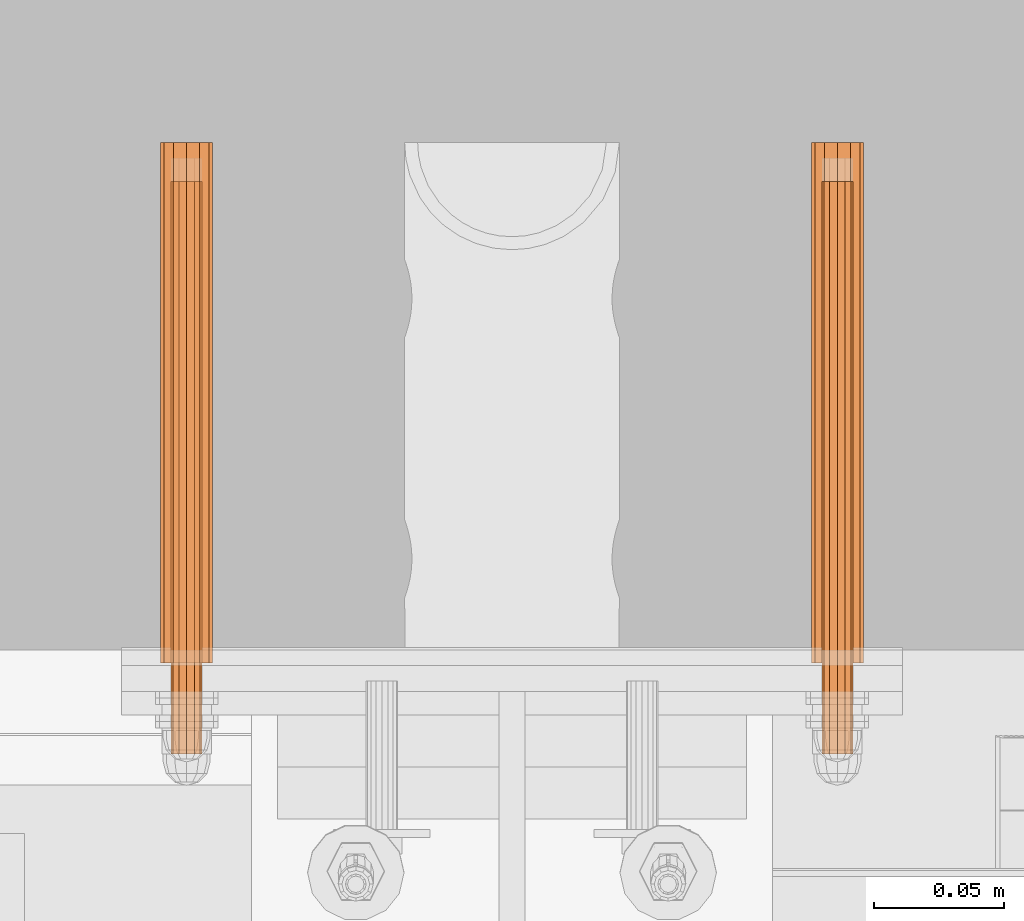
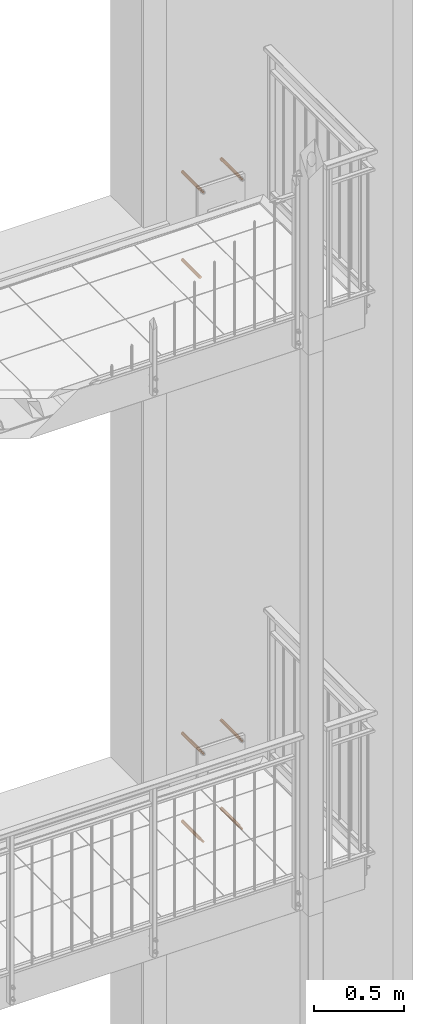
# One storey, part 100 of 162: 13 proxies.
"""IFC2X3 building model written with IfcOpenShell, lengths in millimetres."""

from ifc_helpers import new_model, entity, si_unit, converted_unit, origin_with_axes, place, context, project, spatial, faceted_brep, material, element, save


model = new_model("IFC2X3")

# Units and contexts
model_context = context("Model", 3, precision=1e-09, world=origin_with_axes())
ifc_project = project(units=[si_unit("LENGTHUNIT", "METRE", prefix="MILLI"), si_unit("AREAUNIT", "SQUARE_METRE"), si_unit("VOLUMEUNIT", "CUBIC_METRE"), converted_unit("PLANEANGLEUNIT", "DEGREE", entity("IfcPlaneAngleMeasure", 0.01745329), si_unit("PLANEANGLEUNIT", "RADIAN"), dimensions=[0, 0, 0, 0, 0, 0, 0])], contexts=[model_context])

# Site, building, storey
site_placement = place(None, origin_with_axes())
site = spatial("IfcSite", under=ifc_project, at=site_placement, Name="Hermannstra?e 1a, 60318 Frankfurt", CompositionType="ELEMENT")
building_placement = place(site_placement, origin_with_axes())
building = spatial("IfcBuilding", under=site, at=building_placement, Name="Struktur 1", CompositionType="ELEMENT")
storey_placement = place(building_placement, origin_with_axes())
storey = spatial("IfcBuildingStorey", under=building, at=storey_placement, Name="Default Storey", CompositionType="ELEMENT", Elevation=0.0)

# Proxies
ifc_material_1 = material(Name="Kunststoff")
proxy_1_placement = place(None, origin_with_axes())
element("IfcBuildingElementProxy", 1, at=proxy_1_placement, inside=storey, material=ifc_material_1, ObjectType="-", context=model_context, shape_type="Brep", body=[
    faceted_brep([(5443.308657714, 2930.608666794, 7296.339745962), (5439.648403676, 2930.608666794, 7300.0), (5438.308657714, 2930.608666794, 7305.0), (5439.648403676, 2930.608666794, 7310.0), (5443.308657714, 2930.608666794, 7313.660254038), (5448.308657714, 2930.608666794, 7315.0), (5453.308657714, 2930.608666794, 7313.660254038), (5456.968911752, 2930.608666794, 7310.0), (5458.308657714, 2930.608666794, 7305.0), (5456.968911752, 2930.608666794, 7300.0), (5453.308657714, 2930.608666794, 7296.339745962), (5448.308657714, 2930.608666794, 7295.0), (5448.308657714, 2730.608666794, 7315.0), (5443.308657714, 2730.608666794, 7313.660254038), (5453.308657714, 2730.608666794, 7313.660254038), (5456.968911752, 2730.608666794, 7310.0), (5456.968911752, 2730.608666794, 7300.0), (5453.308657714, 2730.608666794, 7296.339745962), (5458.308657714, 2730.608666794, 7305.0), (5448.308657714, 2730.608666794, 7295.0), (5439.648403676, 2730.608666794, 7310.0), (5438.308657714, 2730.608666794, 7305.0), (5439.648403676, 2730.608666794, 7300.0), (5443.308657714, 2730.608666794, 7296.339745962), (5452.558657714, 2730.608666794, 7297.638784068), (5452.558657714, 2928.608666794, 7297.638784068), (5448.308657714, 2928.608666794, 7296.5), (5448.308657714, 2730.608666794, 7296.5), (5455.669873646, 2730.608666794, 7300.75), (5455.669873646, 2928.608666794, 7300.75), (5448.308657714, 2928.608666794, 7313.5), (5448.308657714, 2730.608666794, 7313.5), (5444.058657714, 2730.608666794, 7312.361215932), (5444.058657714, 2928.608666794, 7312.361215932), (5452.558657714, 2928.608666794, 7312.361215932), (5452.558657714, 2730.608666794, 7312.361215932), (5440.947441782, 2928.608666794, 7309.25), (5439.808657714, 2928.608666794, 7305.0), (5440.947441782, 2928.608666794, 7300.75), (5444.058657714, 2928.608666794, 7297.638784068), (5456.808657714, 2928.608666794, 7305.0), (5455.669873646, 2928.608666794, 7309.25), (5444.058657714, 2730.608666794, 7297.638784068), (5455.669873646, 2730.608666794, 7309.25), (5456.808657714, 2730.608666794, 7305.0), (5440.947441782, 2730.608666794, 7309.25), (5440.947441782, 2730.608666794, 7300.75), (5439.808657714, 2730.608666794, 7305.0)], [[[0, 1, 2, 3, 4, 5, 6, 7, 8, 9, 10, 11]], [[12, 5, 4, 13]], [[14, 6, 5, 12]], [[15, 7, 6, 14]], [[9, 16, 17, 10]], [[18, 8, 7, 15]], [[10, 17, 19, 11]], [[16, 18, 15, 14, 12, 13, 20, 21, 22, 23, 19, 17]], [[8, 18, 16, 9]], [[13, 4, 3, 20]], [[11, 19, 23, 0]], [[24, 25, 26, 27]], [[25, 24, 28, 29]], [[30, 31, 32, 33]], [[31, 30, 34, 35]], [[33, 36, 37, 38, 39, 26, 25, 29, 40, 41, 34, 30]], [[20, 3, 2, 21]], [[0, 23, 22, 1]], [[27, 26, 39, 42]], [[41, 43, 35, 34]], [[40, 44, 43, 41]], [[29, 28, 44, 40]], [[21, 2, 1, 22]], [[33, 32, 45, 36]], [[42, 39, 38, 46]], [[36, 45, 47, 37]], [[46, 38, 37, 47]]]),
])
proxy_2_placement = place(None, origin_with_axes())
element("IfcBuildingElementProxy", 2, at=proxy_2_placement, inside=storey, material=ifc_material_1, ObjectType="-", context=model_context, shape_type="Brep", body=[
    faceted_brep([(5689.648403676, 2930.608666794, 7910.0), (5693.308657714, 2930.608666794, 7913.660254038), (5698.308657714, 2930.608666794, 7915.0), (5703.308657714, 2930.608666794, 7913.660254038), (5706.968911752, 2930.608666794, 7910.0), (5708.308657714, 2930.608666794, 7905.0), (5706.968911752, 2930.608666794, 7900.0), (5703.308657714, 2930.608666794, 7896.339745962), (5698.308657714, 2930.608666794, 7895.0), (5693.308657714, 2930.608666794, 7896.339745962), (5689.648403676, 2930.608666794, 7900.0), (5688.308657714, 2930.608666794, 7905.0), (5698.308657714, 2730.608666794, 7895.0), (5693.308657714, 2730.608666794, 7896.339745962), (5703.308657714, 2730.608666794, 7896.339745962), (5706.968911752, 2730.608666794, 7900.0), (5706.968911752, 2730.608666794, 7910.0), (5703.308657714, 2730.608666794, 7913.660254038), (5708.308657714, 2730.608666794, 7905.0), (5698.308657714, 2730.608666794, 7915.0), (5693.308657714, 2730.608666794, 7913.660254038), (5689.648403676, 2730.608666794, 7910.0), (5688.308657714, 2730.608666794, 7905.0), (5689.648403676, 2730.608666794, 7900.0), (5702.558657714, 2730.608666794, 7912.361215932), (5705.669873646, 2730.608666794, 7909.25), (5706.808657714, 2730.608666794, 7905.0), (5705.669873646, 2730.608666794, 7900.75), (5702.558657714, 2730.608666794, 7897.638784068), (5698.308657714, 2730.608666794, 7896.5), (5694.058657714, 2730.608666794, 7897.638784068), (5690.947441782, 2730.608666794, 7900.75), (5689.808657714, 2730.608666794, 7905.0), (5690.947441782, 2730.608666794, 7909.25), (5694.058657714, 2730.608666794, 7912.361215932), (5698.308657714, 2730.608666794, 7913.5), (5702.558657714, 2928.608666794, 7912.361215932), (5698.308657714, 2928.608666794, 7913.5), (5705.669873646, 2928.608666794, 7909.25), (5698.308657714, 2928.608666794, 7896.5), (5694.058657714, 2928.608666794, 7897.638784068), (5702.558657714, 2928.608666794, 7897.638784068), (5690.947441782, 2928.608666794, 7900.75), (5705.669873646, 2928.608666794, 7900.75), (5706.808657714, 2928.608666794, 7905.0), (5694.058657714, 2928.608666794, 7912.361215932), (5690.947441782, 2928.608666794, 7909.25), (5689.808657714, 2928.608666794, 7905.0)], [[[0, 1, 2, 3, 4, 5, 6, 7, 8, 9, 10, 11]], [[8, 12, 13, 9]], [[7, 14, 12, 8]], [[6, 15, 14, 7]], [[16, 4, 3, 17]], [[5, 18, 15, 6]], [[17, 3, 2, 19]], [[18, 16, 17, 19, 20, 21, 22, 23, 13, 12, 14, 15], [24, 25, 26, 27, 28, 29, 30, 31, 32, 33, 34, 35]], [[18, 5, 4, 16]], [[9, 13, 23, 10]], [[19, 2, 1, 20]], [[36, 24, 35, 37]], [[24, 36, 38, 25]], [[29, 39, 40, 30]], [[39, 29, 28, 41]], [[42, 40, 39, 41, 43, 44, 38, 36, 37, 45, 46, 47]], [[10, 23, 22, 11]], [[20, 1, 0, 21]], [[37, 35, 34, 45]], [[27, 43, 41, 28]], [[26, 44, 43, 27]], [[25, 38, 44, 26]], [[11, 22, 21, 0]], [[30, 40, 42, 31]], [[45, 34, 33, 46]], [[31, 42, 47, 32]], [[46, 33, 32, 47]]]),
])
ifc_material_2 = material(Name="A4")
proxy_3_placement = place(None, origin_with_axes())
element("IfcBuildingElementProxy", 3, at=proxy_3_placement, inside=storey, material=ifc_material_2, ObjectType="-", context=model_context, shape_type="Brep", body=[
    faceted_brep([(5698.308657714, 2915.608666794, 7899.0), (5698.308657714, 2695.608666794, 7899.0), (5695.308657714, 2695.608666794, 7899.803847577), (5695.308657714, 2915.608666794, 7899.803847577), (5701.308657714, 2915.608666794, 7899.803847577), (5701.308657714, 2695.608666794, 7899.803847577), (5703.504810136, 2695.608666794, 7908.0), (5701.308657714, 2695.608666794, 7910.196152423), (5698.308657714, 2695.608666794, 7911.0), (5695.308657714, 2695.608666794, 7910.196152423), (5693.112505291, 2695.608666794, 7908.0), (5692.308657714, 2695.608666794, 7905.0), (5693.112505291, 2695.608666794, 7902.0), (5703.504810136, 2695.608666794, 7902.0), (5704.308657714, 2695.608666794, 7905.0), (5693.112505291, 2915.608666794, 7908.0), (5695.308657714, 2915.608666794, 7910.196152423), (5698.308657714, 2915.608666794, 7911.0), (5701.308657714, 2915.608666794, 7910.196152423), (5703.504810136, 2915.608666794, 7908.0), (5704.308657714, 2915.608666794, 7905.0), (5703.504810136, 2915.608666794, 7902.0), (5693.112505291, 2915.608666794, 7902.0), (5692.308657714, 2915.608666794, 7905.0)], [[[0, 1, 2, 3]], [[1, 0, 4, 5]], [[6, 7, 8, 9, 10, 11, 12, 2, 1, 5, 13, 14]], [[15, 16, 17, 18, 19, 20, 21, 4, 0, 3, 22, 23]], [[3, 2, 12, 22]], [[5, 4, 21, 13]], [[11, 23, 22, 12]], [[10, 15, 23, 11]], [[13, 21, 20, 14]], [[16, 9, 8, 17]], [[15, 10, 9, 16]], [[17, 8, 7, 18]], [[14, 20, 19, 6]], [[18, 7, 6, 19]]]),
])
proxy_4_placement = place(None, origin_with_axes())
element("IfcBuildingElementProxy", 4, at=proxy_4_placement, inside=storey, material=ifc_material_1, ObjectType="-", context=model_context, shape_type="Brep", body=[
    faceted_brep([(5439.648403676, 2930.608666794, 7910.0), (5443.308657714, 2930.608666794, 7913.660254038), (5448.308657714, 2930.608666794, 7915.0), (5453.308657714, 2930.608666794, 7913.660254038), (5456.968911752, 2930.608666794, 7910.0), (5458.308657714, 2930.608666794, 7905.0), (5456.968911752, 2930.608666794, 7900.0), (5453.308657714, 2930.608666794, 7896.339745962), (5448.308657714, 2930.608666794, 7895.0), (5443.308657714, 2930.608666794, 7896.339745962), (5439.648403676, 2930.608666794, 7900.0), (5438.308657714, 2930.608666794, 7905.0), (5448.308657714, 2730.608666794, 7895.0), (5443.308657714, 2730.608666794, 7896.339745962), (5453.308657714, 2730.608666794, 7896.339745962), (5456.968911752, 2730.608666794, 7900.0), (5456.968911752, 2730.608666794, 7910.0), (5453.308657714, 2730.608666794, 7913.660254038), (5458.308657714, 2730.608666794, 7905.0), (5448.308657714, 2730.608666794, 7915.0), (5443.308657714, 2730.608666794, 7913.660254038), (5439.648403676, 2730.608666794, 7910.0), (5438.308657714, 2730.608666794, 7905.0), (5439.648403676, 2730.608666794, 7900.0), (5452.558657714, 2730.608666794, 7912.361215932), (5455.669873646, 2730.608666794, 7909.25), (5456.808657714, 2730.608666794, 7905.0), (5455.669873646, 2730.608666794, 7900.75), (5452.558657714, 2730.608666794, 7897.638784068), (5448.308657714, 2730.608666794, 7896.5), (5444.058657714, 2730.608666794, 7897.638784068), (5440.947441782, 2730.608666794, 7900.75), (5439.808657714, 2730.608666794, 7905.0), (5440.947441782, 2730.608666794, 7909.25), (5444.058657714, 2730.608666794, 7912.361215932), (5448.308657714, 2730.608666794, 7913.5), (5452.558657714, 2928.608666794, 7912.361215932), (5448.308657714, 2928.608666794, 7913.5), (5455.669873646, 2928.608666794, 7909.25), (5448.308657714, 2928.608666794, 7896.5), (5444.058657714, 2928.608666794, 7897.638784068), (5452.558657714, 2928.608666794, 7897.638784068), (5440.947441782, 2928.608666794, 7900.75), (5455.669873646, 2928.608666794, 7900.75), (5456.808657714, 2928.608666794, 7905.0), (5444.058657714, 2928.608666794, 7912.361215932), (5440.947441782, 2928.608666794, 7909.25), (5439.808657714, 2928.608666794, 7905.0)], [[[0, 1, 2, 3, 4, 5, 6, 7, 8, 9, 10, 11]], [[8, 12, 13, 9]], [[7, 14, 12, 8]], [[6, 15, 14, 7]], [[16, 4, 3, 17]], [[5, 18, 15, 6]], [[17, 3, 2, 19]], [[18, 16, 17, 19, 20, 21, 22, 23, 13, 12, 14, 15], [24, 25, 26, 27, 28, 29, 30, 31, 32, 33, 34, 35]], [[18, 5, 4, 16]], [[9, 13, 23, 10]], [[19, 2, 1, 20]], [[36, 24, 35, 37]], [[24, 36, 38, 25]], [[29, 39, 40, 30]], [[39, 29, 28, 41]], [[42, 40, 39, 41, 43, 44, 38, 36, 37, 45, 46, 47]], [[10, 23, 22, 11]], [[20, 1, 0, 21]], [[37, 35, 34, 45]], [[27, 43, 41, 28]], [[26, 44, 43, 27]], [[25, 38, 44, 26]], [[11, 22, 21, 0]], [[30, 40, 42, 31]], [[45, 34, 33, 46]], [[31, 42, 47, 32]], [[46, 33, 32, 47]]]),
])
proxy_5_placement = place(None, origin_with_axes())
element("IfcBuildingElementProxy", 5, at=proxy_5_placement, inside=storey, material=ifc_material_2, ObjectType="-", context=model_context, shape_type="Brep", body=[
    faceted_brep([(5448.308657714, 2915.608666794, 7899.0), (5448.308657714, 2695.608666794, 7899.0), (5445.308657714, 2695.608666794, 7899.803847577), (5445.308657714, 2915.608666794, 7899.803847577), (5451.308657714, 2915.608666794, 7899.803847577), (5451.308657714, 2695.608666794, 7899.803847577), (5453.504810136, 2695.608666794, 7908.0), (5451.308657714, 2695.608666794, 7910.196152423), (5448.308657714, 2695.608666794, 7911.0), (5445.308657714, 2695.608666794, 7910.196152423), (5443.112505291, 2695.608666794, 7908.0), (5442.308657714, 2695.608666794, 7905.0), (5443.112505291, 2695.608666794, 7902.0), (5453.504810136, 2695.608666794, 7902.0), (5454.308657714, 2695.608666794, 7905.0), (5443.112505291, 2915.608666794, 7908.0), (5445.308657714, 2915.608666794, 7910.196152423), (5448.308657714, 2915.608666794, 7911.0), (5451.308657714, 2915.608666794, 7910.196152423), (5453.504810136, 2915.608666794, 7908.0), (5454.308657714, 2915.608666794, 7905.0), (5453.504810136, 2915.608666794, 7902.0), (5443.112505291, 2915.608666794, 7902.0), (5442.308657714, 2915.608666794, 7905.0)], [[[0, 1, 2, 3]], [[1, 0, 4, 5]], [[6, 7, 8, 9, 10, 11, 12, 2, 1, 5, 13, 14]], [[15, 16, 17, 18, 19, 20, 21, 4, 0, 3, 22, 23]], [[3, 2, 12, 22]], [[5, 4, 21, 13]], [[11, 23, 22, 12]], [[10, 15, 23, 11]], [[13, 21, 20, 14]], [[16, 9, 8, 17]], [[15, 10, 9, 16]], [[17, 8, 7, 18]], [[14, 20, 19, 6]], [[18, 7, 6, 19]]]),
])
proxy_6_placement = place(None, origin_with_axes())
element("IfcBuildingElementProxy", 6, at=proxy_6_placement, inside=storey, material=ifc_material_2, ObjectType="-", context=model_context, shape_type="Brep", body=[
    faceted_brep([(5698.310071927, 2695.610081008, 3486.0), (5698.310071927, 2915.610081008, 3486.0), (5695.310071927, 2915.610081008, 3485.196152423), (5695.310071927, 2695.610081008, 3485.196152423), (5701.310071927, 2695.610081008, 3485.196152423), (5701.310071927, 2915.610081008, 3485.196152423), (5701.310071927, 2695.610081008, 3474.803847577), (5703.50622435, 2695.610081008, 3477.0), (5704.310071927, 2695.610081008, 3480.0), (5703.50622435, 2695.610081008, 3483.0), (5693.113919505, 2695.610081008, 3483.0), (5692.310071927, 2695.610081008, 3480.0), (5693.113919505, 2695.610081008, 3477.0), (5695.310071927, 2695.610081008, 3474.803847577), (5698.310071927, 2695.610081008, 3474.0), (5695.310071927, 2915.610081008, 3474.803847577), (5693.113919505, 2915.610081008, 3477.0), (5692.310071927, 2915.610081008, 3480.0), (5693.113919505, 2915.610081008, 3483.0), (5703.50622435, 2915.610081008, 3483.0), (5704.310071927, 2915.610081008, 3480.0), (5703.50622435, 2915.610081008, 3477.0), (5701.310071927, 2915.610081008, 3474.803847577), (5698.310071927, 2915.610081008, 3474.0)], [[[0, 1, 2, 3]], [[1, 0, 4, 5]], [[6, 7, 8, 9, 4, 0, 3, 10, 11, 12, 13, 14]], [[15, 16, 17, 18, 2, 1, 5, 19, 20, 21, 22, 23]], [[3, 2, 18, 10]], [[5, 4, 9, 19]], [[17, 11, 10, 18]], [[16, 12, 11, 17]], [[19, 9, 8, 20]], [[13, 15, 23, 14]], [[12, 16, 15, 13]], [[14, 23, 22, 6]], [[20, 8, 7, 21]], [[6, 22, 21, 7]]]),
])
proxy_7_placement = place(None, origin_with_axes())
element("IfcBuildingElementProxy", 7, at=proxy_7_placement, inside=storey, material=ifc_material_1, ObjectType="-", context=model_context, shape_type="Brep", body=[
    faceted_brep([(5693.310071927, 2930.610081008, 3471.339745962), (5689.649817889, 2930.610081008, 3475.0), (5688.310071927, 2930.610081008, 3480.0), (5689.649817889, 2930.610081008, 3485.0), (5693.310071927, 2930.610081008, 3488.660254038), (5698.310071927, 2930.610081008, 3490.0), (5703.310071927, 2930.610081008, 3488.660254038), (5706.970325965, 2930.610081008, 3485.0), (5708.310071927, 2930.610081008, 3480.0), (5706.970325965, 2930.610081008, 3475.0), (5703.310071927, 2930.610081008, 3471.339745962), (5698.310071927, 2930.610081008, 3470.0), (5698.310071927, 2730.610081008, 3490.0), (5693.310071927, 2730.610081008, 3488.660254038), (5703.310071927, 2730.610081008, 3488.660254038), (5706.970325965, 2730.610081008, 3485.0), (5706.970325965, 2730.610081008, 3475.0), (5703.310071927, 2730.610081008, 3471.339745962), (5708.310071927, 2730.610081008, 3480.0), (5698.310071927, 2730.610081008, 3470.0), (5689.649817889, 2730.610081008, 3485.0), (5688.310071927, 2730.610081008, 3480.0), (5689.649817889, 2730.610081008, 3475.0), (5693.310071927, 2730.610081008, 3471.339745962), (5702.560071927, 2730.610081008, 3472.638784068), (5702.560071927, 2928.610081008, 3472.638784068), (5698.310071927, 2928.610081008, 3471.5), (5698.310071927, 2730.610081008, 3471.5), (5705.671287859, 2730.610081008, 3475.75), (5705.671287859, 2928.610081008, 3475.75), (5698.310071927, 2928.610081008, 3488.5), (5698.310071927, 2730.610081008, 3488.5), (5694.060071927, 2730.610081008, 3487.361215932), (5694.060071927, 2928.610081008, 3487.361215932), (5702.560071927, 2928.610081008, 3487.361215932), (5702.560071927, 2730.610081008, 3487.361215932), (5690.948855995, 2928.610081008, 3484.25), (5689.810071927, 2928.610081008, 3480.0), (5690.948855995, 2928.610081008, 3475.75), (5694.060071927, 2928.610081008, 3472.638784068), (5706.810071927, 2928.610081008, 3480.0), (5705.671287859, 2928.610081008, 3484.25), (5694.060071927, 2730.610081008, 3472.638784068), (5705.671287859, 2730.610081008, 3484.25), (5706.810071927, 2730.610081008, 3480.0), (5690.948855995, 2730.610081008, 3484.25), (5690.948855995, 2730.610081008, 3475.75), (5689.810071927, 2730.610081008, 3480.0)], [[[0, 1, 2, 3, 4, 5, 6, 7, 8, 9, 10, 11]], [[12, 5, 4, 13]], [[14, 6, 5, 12]], [[15, 7, 6, 14]], [[9, 16, 17, 10]], [[18, 8, 7, 15]], [[10, 17, 19, 11]], [[16, 18, 15, 14, 12, 13, 20, 21, 22, 23, 19, 17]], [[8, 18, 16, 9]], [[13, 4, 3, 20]], [[11, 19, 23, 0]], [[24, 25, 26, 27]], [[25, 24, 28, 29]], [[30, 31, 32, 33]], [[31, 30, 34, 35]], [[33, 36, 37, 38, 39, 26, 25, 29, 40, 41, 34, 30]], [[20, 3, 2, 21]], [[0, 23, 22, 1]], [[27, 26, 39, 42]], [[41, 43, 35, 34]], [[40, 44, 43, 41]], [[29, 28, 44, 40]], [[21, 2, 1, 22]], [[33, 32, 45, 36]], [[42, 39, 38, 46]], [[36, 45, 47, 37]], [[46, 38, 37, 47]]]),
])
proxy_8_placement = place(None, origin_with_axes())
element("IfcBuildingElementProxy", 8, at=proxy_8_placement, inside=storey, material=ifc_material_2, ObjectType="-", context=model_context, shape_type="Brep", body=[
    faceted_brep([(5448.310071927, 2695.610081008, 3486.0), (5448.310071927, 2915.610081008, 3486.0), (5445.310071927, 2915.610081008, 3485.196152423), (5445.310071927, 2695.610081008, 3485.196152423), (5451.310071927, 2695.610081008, 3485.196152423), (5451.310071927, 2915.610081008, 3485.196152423), (5451.310071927, 2695.610081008, 3474.803847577), (5453.50622435, 2695.610081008, 3477.0), (5454.310071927, 2695.610081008, 3480.0), (5453.50622435, 2695.610081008, 3483.0), (5443.113919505, 2695.610081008, 3483.0), (5442.310071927, 2695.610081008, 3480.0), (5443.113919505, 2695.610081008, 3477.0), (5445.310071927, 2695.610081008, 3474.803847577), (5448.310071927, 2695.610081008, 3474.0), (5445.310071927, 2915.610081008, 3474.803847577), (5443.113919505, 2915.610081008, 3477.0), (5442.310071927, 2915.610081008, 3480.0), (5443.113919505, 2915.610081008, 3483.0), (5453.50622435, 2915.610081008, 3483.0), (5454.310071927, 2915.610081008, 3480.0), (5453.50622435, 2915.610081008, 3477.0), (5451.310071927, 2915.610081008, 3474.803847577), (5448.310071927, 2915.610081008, 3474.0)], [[[0, 1, 2, 3]], [[1, 0, 4, 5]], [[6, 7, 8, 9, 4, 0, 3, 10, 11, 12, 13, 14]], [[15, 16, 17, 18, 2, 1, 5, 19, 20, 21, 22, 23]], [[3, 2, 18, 10]], [[5, 4, 9, 19]], [[17, 11, 10, 18]], [[16, 12, 11, 17]], [[19, 9, 8, 20]], [[13, 15, 23, 14]], [[12, 16, 15, 13]], [[14, 23, 22, 6]], [[20, 8, 7, 21]], [[6, 22, 21, 7]]]),
])
proxy_9_placement = place(None, origin_with_axes())
element("IfcBuildingElementProxy", 9, at=proxy_9_placement, inside=storey, material=ifc_material_1, ObjectType="-", context=model_context, shape_type="Brep", body=[
    faceted_brep([(5443.310071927, 2930.610081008, 3471.339745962), (5439.649817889, 2930.610081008, 3475.0), (5438.310071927, 2930.610081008, 3480.0), (5439.649817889, 2930.610081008, 3485.0), (5443.310071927, 2930.610081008, 3488.660254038), (5448.310071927, 2930.610081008, 3490.0), (5453.310071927, 2930.610081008, 3488.660254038), (5456.970325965, 2930.610081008, 3485.0), (5458.310071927, 2930.610081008, 3480.0), (5456.970325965, 2930.610081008, 3475.0), (5453.310071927, 2930.610081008, 3471.339745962), (5448.310071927, 2930.610081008, 3470.0), (5448.310071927, 2730.610081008, 3490.0), (5443.310071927, 2730.610081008, 3488.660254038), (5453.310071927, 2730.610081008, 3488.660254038), (5456.970325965, 2730.610081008, 3485.0), (5456.970325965, 2730.610081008, 3475.0), (5453.310071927, 2730.610081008, 3471.339745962), (5458.310071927, 2730.610081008, 3480.0), (5448.310071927, 2730.610081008, 3470.0), (5439.649817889, 2730.610081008, 3485.0), (5438.310071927, 2730.610081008, 3480.0), (5439.649817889, 2730.610081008, 3475.0), (5443.310071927, 2730.610081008, 3471.339745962), (5452.560071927, 2730.610081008, 3472.638784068), (5452.560071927, 2928.610081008, 3472.638784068), (5448.310071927, 2928.610081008, 3471.5), (5448.310071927, 2730.610081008, 3471.5), (5455.671287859, 2730.610081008, 3475.75), (5455.671287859, 2928.610081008, 3475.75), (5448.310071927, 2928.610081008, 3488.5), (5448.310071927, 2730.610081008, 3488.5), (5444.060071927, 2730.610081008, 3487.361215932), (5444.060071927, 2928.610081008, 3487.361215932), (5452.560071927, 2928.610081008, 3487.361215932), (5452.560071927, 2730.610081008, 3487.361215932), (5440.948855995, 2928.610081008, 3484.25), (5439.810071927, 2928.610081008, 3480.0), (5440.948855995, 2928.610081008, 3475.75), (5444.060071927, 2928.610081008, 3472.638784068), (5456.810071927, 2928.610081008, 3480.0), (5455.671287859, 2928.610081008, 3484.25), (5444.060071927, 2730.610081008, 3472.638784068), (5455.671287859, 2730.610081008, 3484.25), (5456.810071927, 2730.610081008, 3480.0), (5440.948855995, 2730.610081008, 3484.25), (5440.948855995, 2730.610081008, 3475.75), (5439.810071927, 2730.610081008, 3480.0)], [[[0, 1, 2, 3, 4, 5, 6, 7, 8, 9, 10, 11]], [[12, 5, 4, 13]], [[14, 6, 5, 12]], [[15, 7, 6, 14]], [[9, 16, 17, 10]], [[18, 8, 7, 15]], [[10, 17, 19, 11]], [[16, 18, 15, 14, 12, 13, 20, 21, 22, 23, 19, 17]], [[8, 18, 16, 9]], [[13, 4, 3, 20]], [[11, 19, 23, 0]], [[24, 25, 26, 27]], [[25, 24, 28, 29]], [[30, 31, 32, 33]], [[31, 30, 34, 35]], [[33, 36, 37, 38, 39, 26, 25, 29, 40, 41, 34, 30]], [[20, 3, 2, 21]], [[0, 23, 22, 1]], [[27, 26, 39, 42]], [[41, 43, 35, 34]], [[40, 44, 43, 41]], [[29, 28, 44, 40]], [[21, 2, 1, 22]], [[33, 32, 45, 36]], [[42, 39, 38, 46]], [[36, 45, 47, 37]], [[46, 38, 37, 47]]]),
])
proxy_10_placement = place(None, origin_with_axes())
element("IfcBuildingElementProxy", 10, at=proxy_10_placement, inside=storey, material=ifc_material_1, ObjectType="-", context=model_context, shape_type="Brep", body=[
    faceted_brep([(5689.649817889, 2930.610081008, 4085.0), (5693.310071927, 2930.610081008, 4088.660254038), (5698.310071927, 2930.610081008, 4090.0), (5703.310071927, 2930.610081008, 4088.660254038), (5706.970325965, 2930.610081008, 4085.0), (5708.310071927, 2930.610081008, 4080.0), (5706.970325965, 2930.610081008, 4075.0), (5703.310071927, 2930.610081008, 4071.339745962), (5698.310071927, 2930.610081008, 4070.0), (5693.310071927, 2930.610081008, 4071.339745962), (5689.649817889, 2930.610081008, 4075.0), (5688.310071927, 2930.610081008, 4080.0), (5698.310071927, 2730.610081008, 4070.0), (5693.310071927, 2730.610081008, 4071.339745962), (5703.310071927, 2730.610081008, 4071.339745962), (5706.970325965, 2730.610081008, 4075.0), (5706.970325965, 2730.610081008, 4085.0), (5703.310071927, 2730.610081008, 4088.660254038), (5708.310071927, 2730.610081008, 4080.0), (5698.310071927, 2730.610081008, 4090.0), (5693.310071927, 2730.610081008, 4088.660254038), (5689.649817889, 2730.610081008, 4085.0), (5688.310071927, 2730.610081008, 4080.0), (5689.649817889, 2730.610081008, 4075.0), (5702.560071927, 2730.610081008, 4087.361215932), (5705.671287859, 2730.610081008, 4084.25), (5706.810071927, 2730.610081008, 4080.0), (5705.671287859, 2730.610081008, 4075.75), (5702.560071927, 2730.610081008, 4072.638784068), (5698.310071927, 2730.610081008, 4071.5), (5694.060071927, 2730.610081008, 4072.638784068), (5690.948855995, 2730.610081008, 4075.75), (5689.810071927, 2730.610081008, 4080.0), (5690.948855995, 2730.610081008, 4084.25), (5694.060071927, 2730.610081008, 4087.361215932), (5698.310071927, 2730.610081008, 4088.5), (5702.560071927, 2928.610081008, 4087.361215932), (5698.310071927, 2928.610081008, 4088.5), (5705.671287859, 2928.610081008, 4084.25), (5698.310071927, 2928.610081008, 4071.5), (5694.060071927, 2928.610081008, 4072.638784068), (5702.560071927, 2928.610081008, 4072.638784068), (5690.948855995, 2928.610081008, 4075.75), (5705.671287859, 2928.610081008, 4075.75), (5706.810071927, 2928.610081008, 4080.0), (5694.060071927, 2928.610081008, 4087.361215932), (5690.948855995, 2928.610081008, 4084.25), (5689.810071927, 2928.610081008, 4080.0)], [[[0, 1, 2, 3, 4, 5, 6, 7, 8, 9, 10, 11]], [[8, 12, 13, 9]], [[7, 14, 12, 8]], [[6, 15, 14, 7]], [[16, 4, 3, 17]], [[5, 18, 15, 6]], [[17, 3, 2, 19]], [[18, 16, 17, 19, 20, 21, 22, 23, 13, 12, 14, 15], [24, 25, 26, 27, 28, 29, 30, 31, 32, 33, 34, 35]], [[18, 5, 4, 16]], [[9, 13, 23, 10]], [[19, 2, 1, 20]], [[36, 24, 35, 37]], [[24, 36, 38, 25]], [[29, 39, 40, 30]], [[39, 29, 28, 41]], [[42, 40, 39, 41, 43, 44, 38, 36, 37, 45, 46, 47]], [[10, 23, 22, 11]], [[20, 1, 0, 21]], [[37, 35, 34, 45]], [[27, 43, 41, 28]], [[26, 44, 43, 27]], [[25, 38, 44, 26]], [[11, 22, 21, 0]], [[30, 40, 42, 31]], [[45, 34, 33, 46]], [[31, 42, 47, 32]], [[46, 33, 32, 47]]]),
])
proxy_11_placement = place(None, origin_with_axes())
element("IfcBuildingElementProxy", 11, at=proxy_11_placement, inside=storey, material=ifc_material_2, ObjectType="-", context=model_context, shape_type="Brep", body=[
    faceted_brep([(5698.310071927, 2915.610081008, 4074.0), (5698.310071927, 2695.610081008, 4074.0), (5695.310071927, 2695.610081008, 4074.803847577), (5695.310071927, 2915.610081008, 4074.803847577), (5701.310071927, 2915.610081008, 4074.803847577), (5701.310071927, 2695.610081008, 4074.803847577), (5703.50622435, 2695.610081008, 4083.0), (5701.310071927, 2695.610081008, 4085.196152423), (5698.310071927, 2695.610081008, 4086.0), (5695.310071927, 2695.610081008, 4085.196152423), (5693.113919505, 2695.610081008, 4083.0), (5692.310071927, 2695.610081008, 4080.0), (5693.113919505, 2695.610081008, 4077.0), (5703.50622435, 2695.610081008, 4077.0), (5704.310071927, 2695.610081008, 4080.0), (5693.113919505, 2915.610081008, 4083.0), (5695.310071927, 2915.610081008, 4085.196152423), (5698.310071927, 2915.610081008, 4086.0), (5701.310071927, 2915.610081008, 4085.196152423), (5703.50622435, 2915.610081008, 4083.0), (5704.310071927, 2915.610081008, 4080.0), (5703.50622435, 2915.610081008, 4077.0), (5693.113919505, 2915.610081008, 4077.0), (5692.310071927, 2915.610081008, 4080.0)], [[[0, 1, 2, 3]], [[1, 0, 4, 5]], [[6, 7, 8, 9, 10, 11, 12, 2, 1, 5, 13, 14]], [[15, 16, 17, 18, 19, 20, 21, 4, 0, 3, 22, 23]], [[3, 2, 12, 22]], [[5, 4, 21, 13]], [[11, 23, 22, 12]], [[10, 15, 23, 11]], [[13, 21, 20, 14]], [[16, 9, 8, 17]], [[15, 10, 9, 16]], [[17, 8, 7, 18]], [[14, 20, 19, 6]], [[18, 7, 6, 19]]]),
])
proxy_12_placement = place(None, origin_with_axes())
element("IfcBuildingElementProxy", 12, at=proxy_12_placement, inside=storey, material=ifc_material_1, ObjectType="-", context=model_context, shape_type="Brep", body=[
    faceted_brep([(5439.649817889, 2930.610081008, 4085.0), (5443.310071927, 2930.610081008, 4088.660254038), (5448.310071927, 2930.610081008, 4090.0), (5453.310071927, 2930.610081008, 4088.660254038), (5456.970325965, 2930.610081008, 4085.0), (5458.310071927, 2930.610081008, 4080.0), (5456.970325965, 2930.610081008, 4075.0), (5453.310071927, 2930.610081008, 4071.339745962), (5448.310071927, 2930.610081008, 4070.0), (5443.310071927, 2930.610081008, 4071.339745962), (5439.649817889, 2930.610081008, 4075.0), (5438.310071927, 2930.610081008, 4080.0), (5448.310071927, 2730.610081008, 4070.0), (5443.310071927, 2730.610081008, 4071.339745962), (5453.310071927, 2730.610081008, 4071.339745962), (5456.970325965, 2730.610081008, 4075.0), (5456.970325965, 2730.610081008, 4085.0), (5453.310071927, 2730.610081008, 4088.660254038), (5458.310071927, 2730.610081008, 4080.0), (5448.310071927, 2730.610081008, 4090.0), (5443.310071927, 2730.610081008, 4088.660254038), (5439.649817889, 2730.610081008, 4085.0), (5438.310071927, 2730.610081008, 4080.0), (5439.649817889, 2730.610081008, 4075.0), (5452.560071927, 2730.610081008, 4087.361215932), (5455.671287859, 2730.610081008, 4084.25), (5456.810071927, 2730.610081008, 4080.0), (5455.671287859, 2730.610081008, 4075.75), (5452.560071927, 2730.610081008, 4072.638784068), (5448.310071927, 2730.610081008, 4071.5), (5444.060071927, 2730.610081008, 4072.638784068), (5440.948855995, 2730.610081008, 4075.75), (5439.810071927, 2730.610081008, 4080.0), (5440.948855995, 2730.610081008, 4084.25), (5444.060071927, 2730.610081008, 4087.361215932), (5448.310071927, 2730.610081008, 4088.5), (5452.560071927, 2928.610081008, 4087.361215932), (5448.310071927, 2928.610081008, 4088.5), (5455.671287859, 2928.610081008, 4084.25), (5448.310071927, 2928.610081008, 4071.5), (5444.060071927, 2928.610081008, 4072.638784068), (5452.560071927, 2928.610081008, 4072.638784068), (5440.948855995, 2928.610081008, 4075.75), (5455.671287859, 2928.610081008, 4075.75), (5456.810071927, 2928.610081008, 4080.0), (5444.060071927, 2928.610081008, 4087.361215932), (5440.948855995, 2928.610081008, 4084.25), (5439.810071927, 2928.610081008, 4080.0)], [[[0, 1, 2, 3, 4, 5, 6, 7, 8, 9, 10, 11]], [[8, 12, 13, 9]], [[7, 14, 12, 8]], [[6, 15, 14, 7]], [[16, 4, 3, 17]], [[5, 18, 15, 6]], [[17, 3, 2, 19]], [[18, 16, 17, 19, 20, 21, 22, 23, 13, 12, 14, 15], [24, 25, 26, 27, 28, 29, 30, 31, 32, 33, 34, 35]], [[18, 5, 4, 16]], [[9, 13, 23, 10]], [[19, 2, 1, 20]], [[36, 24, 35, 37]], [[24, 36, 38, 25]], [[29, 39, 40, 30]], [[39, 29, 28, 41]], [[42, 40, 39, 41, 43, 44, 38, 36, 37, 45, 46, 47]], [[10, 23, 22, 11]], [[20, 1, 0, 21]], [[37, 35, 34, 45]], [[27, 43, 41, 28]], [[26, 44, 43, 27]], [[25, 38, 44, 26]], [[11, 22, 21, 0]], [[30, 40, 42, 31]], [[45, 34, 33, 46]], [[31, 42, 47, 32]], [[46, 33, 32, 47]]]),
])
proxy_13_placement = place(None, origin_with_axes())
element("IfcBuildingElementProxy", 13, at=proxy_13_placement, inside=storey, material=ifc_material_2, ObjectType="-", context=model_context, shape_type="Brep", body=[
    faceted_brep([(5448.310071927, 2915.610081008, 4074.0), (5448.310071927, 2695.610081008, 4074.0), (5445.310071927, 2695.610081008, 4074.803847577), (5445.310071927, 2915.610081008, 4074.803847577), (5451.310071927, 2915.610081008, 4074.803847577), (5451.310071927, 2695.610081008, 4074.803847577), (5453.50622435, 2695.610081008, 4083.0), (5451.310071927, 2695.610081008, 4085.196152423), (5448.310071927, 2695.610081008, 4086.0), (5445.310071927, 2695.610081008, 4085.196152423), (5443.113919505, 2695.610081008, 4083.0), (5442.310071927, 2695.610081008, 4080.0), (5443.113919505, 2695.610081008, 4077.0), (5453.50622435, 2695.610081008, 4077.0), (5454.310071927, 2695.610081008, 4080.0), (5443.113919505, 2915.610081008, 4083.0), (5445.310071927, 2915.610081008, 4085.196152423), (5448.310071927, 2915.610081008, 4086.0), (5451.310071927, 2915.610081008, 4085.196152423), (5453.50622435, 2915.610081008, 4083.0), (5454.310071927, 2915.610081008, 4080.0), (5453.50622435, 2915.610081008, 4077.0), (5443.113919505, 2915.610081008, 4077.0), (5442.310071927, 2915.610081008, 4080.0)], [[[0, 1, 2, 3]], [[1, 0, 4, 5]], [[6, 7, 8, 9, 10, 11, 12, 2, 1, 5, 13, 14]], [[15, 16, 17, 18, 19, 20, 21, 4, 0, 3, 22, 23]], [[3, 2, 12, 22]], [[5, 4, 21, 13]], [[11, 23, 22, 12]], [[10, 15, 23, 11]], [[13, 21, 20, 14]], [[16, 9, 8, 17]], [[15, 10, 9, 16]], [[17, 8, 7, 18]], [[14, 20, 19, 6]], [[18, 7, 6, 19]]]),
])

save(model, "model.ifc")
